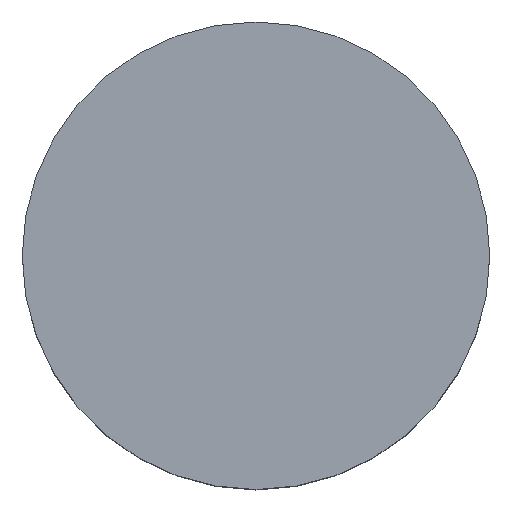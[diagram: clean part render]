
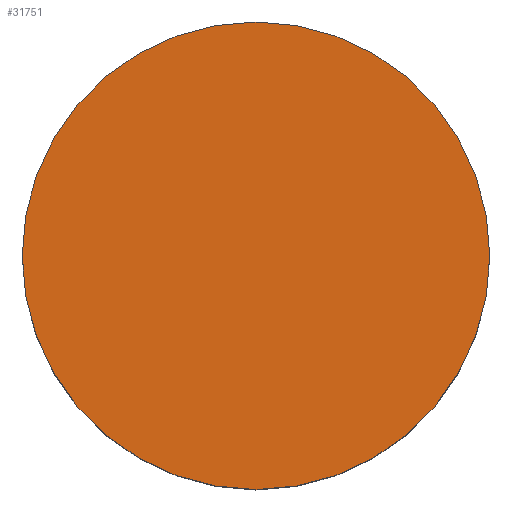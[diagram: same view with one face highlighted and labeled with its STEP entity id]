
A CAD part, top view. The second image highlights one B-rep face of the part: STEP entity #31751.
In plain terms, the highlighted planar face has unit normal (0, 0, 1).
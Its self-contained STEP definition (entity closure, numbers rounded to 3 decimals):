
#1744 = AXIS2_PLACEMENT_3D ( 'NONE', #21856, #18327, #40969 ) ;
#2810 = CIRCLE ( 'NONE', #3976, 29.3 ) ;
#3976 = AXIS2_PLACEMENT_3D ( 'NONE', #8258, #11823, #31358 ) ;
#6027 = AXIS2_PLACEMENT_3D ( 'NONE', #46818, #31796, #24188 ) ;
#8258 = CARTESIAN_POINT ( 'NONE',  ( 0., 0., 32.2 ) ) ;
#8811 = EDGE_CURVE ( 'NONE', #30017, #9022, #19462, .T. ) ;
#9022 = VERTEX_POINT ( 'NONE', #16178 ) ;
#11823 = DIRECTION ( 'NONE',  ( 0., 0., 1. ) ) ;
#16178 = CARTESIAN_POINT ( 'NONE',  ( 29.3, 0., 32.2 ) ) ;
#18290 = EDGE_LOOP ( 'NONE', ( #18967, #29169 ) ) ;
#18327 = DIRECTION ( 'NONE',  ( 0., 0., 1. ) ) ;
#18967 = ORIENTED_EDGE ( 'NONE', *, *, #8811, .T. ) ;
#19462 = CIRCLE ( 'NONE', #6027, 29.3 ) ;
#21856 = CARTESIAN_POINT ( 'NONE',  ( -29.3, 41.138, 32.2 ) ) ;
#24188 = DIRECTION ( 'NONE',  ( 0., -1., 0. ) ) ;
#25860 = PLANE ( 'NONE',  #1744 ) ;
#29169 = ORIENTED_EDGE ( 'NONE', *, *, #32624, .T. ) ;
#30017 = VERTEX_POINT ( 'NONE', #39926 ) ;
#31358 = DIRECTION ( 'NONE',  ( 0., -1., 0. ) ) ;
#31751 = ADVANCED_FACE ( 'NONE', ( #37823 ), #25860, .T. ) ;
#31796 = DIRECTION ( 'NONE',  ( 0., 0., 1. ) ) ;
#32624 = EDGE_CURVE ( 'NONE', #9022, #30017, #2810, .T. ) ;
#37823 = FACE_OUTER_BOUND ( 'NONE', #18290, .T. ) ;
#39926 = CARTESIAN_POINT ( 'NONE',  ( -29.3, 0., 32.2 ) ) ;
#40969 = DIRECTION ( 'NONE',  ( 0., -1., 0. ) ) ;
#46818 = CARTESIAN_POINT ( 'NONE',  ( 0., 0., 32.2 ) ) ;
